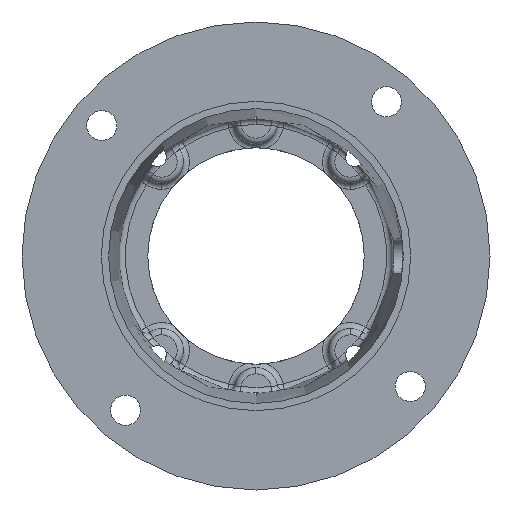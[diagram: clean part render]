
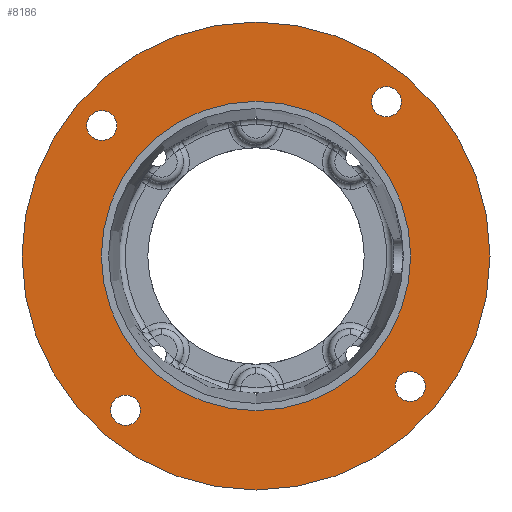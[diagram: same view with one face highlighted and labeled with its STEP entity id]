
A CAD part, front view. The second image highlights one B-rep face of the part: STEP entity #8186.
In plain terms, the highlighted planar face has unit normal (0, -1, 0).
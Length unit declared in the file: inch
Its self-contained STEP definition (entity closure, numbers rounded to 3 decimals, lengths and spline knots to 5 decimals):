
#90 = DIRECTION ( 'NONE',  ( 0., -1., 0. ) ) ;
#151 = ORIENTED_EDGE ( 'NONE', *, *, #6135, .F. ) ;
#189 = EDGE_CURVE ( 'NONE', #3689, #5607, #3515, .T. ) ;
#321 = EDGE_LOOP ( 'NONE', ( #7217, #4120 ) ) ;
#485 = AXIS2_PLACEMENT_3D ( 'NONE', #1266, #5791, #1929 ) ;
#487 = CARTESIAN_POINT ( 'NONE',  ( 2.24475, 0.189, -2.11736 ) ) ;
#563 = PLANE ( 'NONE',  #5744 ) ;
#673 = CARTESIAN_POINT ( 'NONE',  ( 0., 0.189, -3.405 ) ) ;
#819 = CARTESIAN_POINT ( 'NONE',  ( -2.24475, 0.189, 1.89861 ) ) ;
#823 = VERTEX_POINT ( 'NONE', #1605 ) ;
#835 = VERTEX_POINT ( 'NONE', #3589 ) ;
#1217 = DIRECTION ( 'NONE',  ( 0., 0., -1. ) ) ;
#1266 = CARTESIAN_POINT ( 'NONE',  ( 0., 0.189, 0. ) ) ;
#1359 = AXIS2_PLACEMENT_3D ( 'NONE', #6143, #2307, #6811 ) ;
#1412 = DIRECTION ( 'NONE',  ( 0., -1., 0. ) ) ;
#1466 = EDGE_CURVE ( 'NONE', #7662, #1800, #7514, .T. ) ;
#1495 = DIRECTION ( 'NONE',  ( 0., 0., -1. ) ) ;
#1605 = CARTESIAN_POINT ( 'NONE',  ( -1.89861, 0.189, -2.026 ) ) ;
#1697 = EDGE_CURVE ( 'NONE', #835, #6974, #3112, .T. ) ;
#1800 = VERTEX_POINT ( 'NONE', #2234 ) ;
#1863 = CARTESIAN_POINT ( 'NONE',  ( 0., 0.189, 0. ) ) ;
#1886 = ORIENTED_EDGE ( 'NONE', *, *, #4638, .F. ) ;
#1929 = DIRECTION ( 'NONE',  ( 0., 0., -1. ) ) ;
#1983 = VERTEX_POINT ( 'NONE', #673 ) ;
#2044 = AXIS2_PLACEMENT_3D ( 'NONE', #2949, #7436, #3596 ) ;
#2234 = CARTESIAN_POINT ( 'NONE',  ( 0., 0.189, 2.2505 ) ) ;
#2307 = DIRECTION ( 'NONE',  ( 0., -1., 0. ) ) ;
#2330 = CARTESIAN_POINT ( 'NONE',  ( 0., 0.189, 3.405 ) ) ;
#2366 = CARTESIAN_POINT ( 'NONE',  ( -2.24475, 0.189, 1.67986 ) ) ;
#2370 = DIRECTION ( 'NONE',  ( 0., -1., 0. ) ) ;
#2516 = CIRCLE ( 'NONE', #485, 3.405 ) ;
#2800 = CIRCLE ( 'NONE', #2044, 0.21875 ) ;
#2845 = DIRECTION ( 'NONE',  ( 0., -1., 0. ) ) ;
#2846 = VERTEX_POINT ( 'NONE', #2366 ) ;
#2905 = AXIS2_PLACEMENT_3D ( 'NONE', #6838, #2980, #7462 ) ;
#2949 = CARTESIAN_POINT ( 'NONE',  ( -1.89861, 0.189, -2.24475 ) ) ;
#2954 = CIRCLE ( 'NONE', #7878, 0.21875 ) ;
#2962 = DIRECTION ( 'NONE',  ( 0., -1., 0. ) ) ;
#2980 = DIRECTION ( 'NONE',  ( 0., -1., 0. ) ) ;
#3043 = AXIS2_PLACEMENT_3D ( 'NONE', #5284, #1412, #5934 ) ;
#3112 = CIRCLE ( 'NONE', #3114, 0.21875 ) ;
#3113 = FACE_OUTER_BOUND ( 'NONE', #4465, .T. ) ;
#3114 = AXIS2_PLACEMENT_3D ( 'NONE', #3972, #90, #4620 ) ;
#3180 = CARTESIAN_POINT ( 'NONE',  ( 1.89861, 0.189, 2.24475 ) ) ;
#3186 = EDGE_LOOP ( 'NONE', ( #3852, #1886 ) ) ;
#3207 = VERTEX_POINT ( 'NONE', #4427 ) ;
#3313 = FACE_BOUND ( 'NONE', #321, .T. ) ;
#3402 = CIRCLE ( 'NONE', #6998, 0.21875 ) ;
#3492 = DIRECTION ( 'NONE',  ( 0., -1., 0. ) ) ;
#3515 = CIRCLE ( 'NONE', #7658, 0.21875 ) ;
#3589 = CARTESIAN_POINT ( 'NONE',  ( 1.89861, 0.189, 2.4635 ) ) ;
#3592 = CARTESIAN_POINT ( 'NONE',  ( 1.89861, 0.189, 2.026 ) ) ;
#3596 = DIRECTION ( 'NONE',  ( 0., 0., -1. ) ) ;
#3689 = VERTEX_POINT ( 'NONE', #487 ) ;
#3720 = EDGE_CURVE ( 'NONE', #6974, #835, #4418, .T. ) ;
#3766 = ORIENTED_EDGE ( 'NONE', *, *, #4824, .T. ) ;
#3778 = EDGE_CURVE ( 'NONE', #1983, #6999, #2516, .T. ) ;
#3824 = DIRECTION ( 'NONE',  ( 0., 0., -1. ) ) ;
#3852 = ORIENTED_EDGE ( 'NONE', *, *, #1466, .F. ) ;
#3945 = EDGE_CURVE ( 'NONE', #4056, #823, #3402, .T. ) ;
#3972 = CARTESIAN_POINT ( 'NONE',  ( 1.89861, 0.189, 2.24475 ) ) ;
#3986 = EDGE_CURVE ( 'NONE', #5607, #3689, #6418, .T. ) ;
#4009 = CARTESIAN_POINT ( 'NONE',  ( -1.89861, 0.189, -2.4635 ) ) ;
#4056 = VERTEX_POINT ( 'NONE', #4009 ) ;
#4081 = ORIENTED_EDGE ( 'NONE', *, *, #1697, .F. ) ;
#4120 = ORIENTED_EDGE ( 'NONE', *, *, #3986, .F. ) ;
#4395 = ORIENTED_EDGE ( 'NONE', *, *, #7584, .F. ) ;
#4418 = CIRCLE ( 'NONE', #5860, 0.21875 ) ;
#4427 = CARTESIAN_POINT ( 'NONE',  ( -2.24475, 0.189, 2.11736 ) ) ;
#4465 = EDGE_LOOP ( 'NONE', ( #6519, #3766 ) ) ;
#4547 = ORIENTED_EDGE ( 'NONE', *, *, #3720, .F. ) ;
#4620 = DIRECTION ( 'NONE',  ( 0., 0., -1. ) ) ;
#4638 = EDGE_CURVE ( 'NONE', #1800, #7662, #4899, .T. ) ;
#4773 = EDGE_LOOP ( 'NONE', ( #4547, #4081 ) ) ;
#4792 = EDGE_CURVE ( 'NONE', #823, #4056, #2800, .T. ) ;
#4807 = FACE_BOUND ( 'NONE', #3186, .T. ) ;
#4824 = EDGE_CURVE ( 'NONE', #6999, #1983, #7801, .T. ) ;
#4899 = CIRCLE ( 'NONE', #5644, 2.2505 ) ;
#5080 = CARTESIAN_POINT ( 'NONE',  ( 2.24475, 0.189, -1.67986 ) ) ;
#5097 = EDGE_LOOP ( 'NONE', ( #5595, #5408 ) ) ;
#5100 = DIRECTION ( 'NONE',  ( 0., -1., 0. ) ) ;
#5219 = FACE_BOUND ( 'NONE', #4773, .T. ) ;
#5284 = CARTESIAN_POINT ( 'NONE',  ( -2.24475, 0.189, 1.89861 ) ) ;
#5343 = CARTESIAN_POINT ( 'NONE',  ( 0., 0.189, -2.2505 ) ) ;
#5358 = DIRECTION ( 'NONE',  ( 0., -1., 0. ) ) ;
#5408 = ORIENTED_EDGE ( 'NONE', *, *, #4792, .F. ) ;
#5460 = EDGE_LOOP ( 'NONE', ( #151, #4395 ) ) ;
#5595 = ORIENTED_EDGE ( 'NONE', *, *, #3945, .F. ) ;
#5607 = VERTEX_POINT ( 'NONE', #5080 ) ;
#5644 = AXIS2_PLACEMENT_3D ( 'NONE', #6690, #2845, #7338 ) ;
#5744 = AXIS2_PLACEMENT_3D ( 'NONE', #1863, #5100, #1217 ) ;
#5791 = DIRECTION ( 'NONE',  ( 0., -1., 0. ) ) ;
#5860 = AXIS2_PLACEMENT_3D ( 'NONE', #3180, #7665, #3824 ) ;
#5934 = DIRECTION ( 'NONE',  ( 0., 0., -1. ) ) ;
#6135 = EDGE_CURVE ( 'NONE', #2846, #3207, #2954, .T. ) ;
#6143 = CARTESIAN_POINT ( 'NONE',  ( 0., 0.189, 0. ) ) ;
#6216 = CARTESIAN_POINT ( 'NONE',  ( 2.24475, 0.189, -1.89861 ) ) ;
#6257 = CIRCLE ( 'NONE', #3043, 0.21875 ) ;
#6418 = CIRCLE ( 'NONE', #8287, 0.21875 ) ;
#6519 = ORIENTED_EDGE ( 'NONE', *, *, #3778, .T. ) ;
#6523 = FACE_BOUND ( 'NONE', #5097, .T. ) ;
#6690 = CARTESIAN_POINT ( 'NONE',  ( 0., 0.189, 0. ) ) ;
#6811 = DIRECTION ( 'NONE',  ( 0., 0., -1. ) ) ;
#6822 = CARTESIAN_POINT ( 'NONE',  ( -1.89861, 0.189, -2.24475 ) ) ;
#6838 = CARTESIAN_POINT ( 'NONE',  ( 0., 0.189, 0. ) ) ;
#6871 = DIRECTION ( 'NONE',  ( 0., 0., -1. ) ) ;
#6974 = VERTEX_POINT ( 'NONE', #3592 ) ;
#6998 = AXIS2_PLACEMENT_3D ( 'NONE', #6822, #2962, #7446 ) ;
#6999 = VERTEX_POINT ( 'NONE', #2330 ) ;
#7217 = ORIENTED_EDGE ( 'NONE', *, *, #189, .F. ) ;
#7338 = DIRECTION ( 'NONE',  ( 0., 0., -1. ) ) ;
#7344 = CARTESIAN_POINT ( 'NONE',  ( 2.24475, 0.189, -1.89861 ) ) ;
#7436 = DIRECTION ( 'NONE',  ( 0., -1., 0. ) ) ;
#7446 = DIRECTION ( 'NONE',  ( 0., 0., -1. ) ) ;
#7462 = DIRECTION ( 'NONE',  ( 0., 0., -1. ) ) ;
#7514 = CIRCLE ( 'NONE', #1359, 2.2505 ) ;
#7584 = EDGE_CURVE ( 'NONE', #3207, #2846, #6257, .T. ) ;
#7658 = AXIS2_PLACEMENT_3D ( 'NONE', #7344, #3492, #7987 ) ;
#7662 = VERTEX_POINT ( 'NONE', #5343 ) ;
#7665 = DIRECTION ( 'NONE',  ( 0., -1., 0. ) ) ;
#7801 = CIRCLE ( 'NONE', #2905, 3.405 ) ;
#7878 = AXIS2_PLACEMENT_3D ( 'NONE', #819, #5358, #1495 ) ;
#7987 = DIRECTION ( 'NONE',  ( 0., 0., -1. ) ) ;
#8186 = ADVANCED_FACE ( 'NONE', ( #5219, #8233, #3313, #6523, #4807, #3113 ), #563, .T. ) ;
#8233 = FACE_BOUND ( 'NONE', #5460, .T. ) ;
#8287 = AXIS2_PLACEMENT_3D ( 'NONE', #6216, #2370, #6871 ) ;
